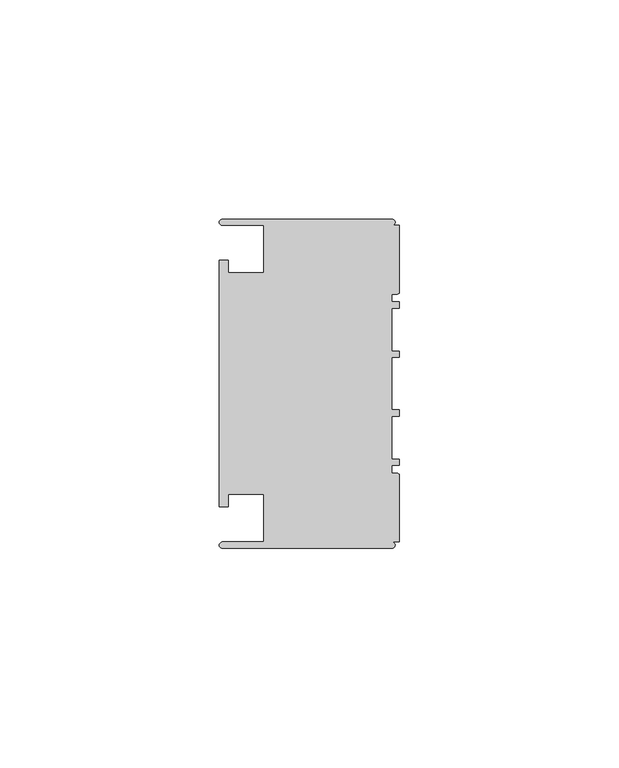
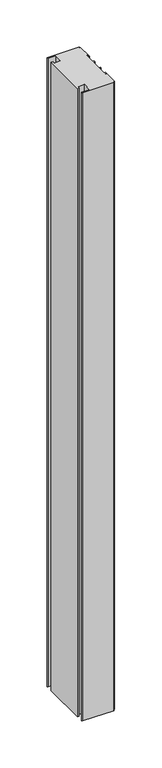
"""IFC4 building model written with IfcOpenShell, lengths in millimetres: member geometry, Прямоугольный импост : 3-AMG-2-Профиль 40Х75 Верх П."""

from ifc_helpers import new_model, si_unit, point, frame, frame_2d, origin, place, context, project, spatial, polyline, circle_curve, trimmed, segment, composite_curve, outline, extrude, source, transform, mapped, element, save


def member_b93c6e8b(model_context):
    return source(origin(), model_context, "Body", "SweptSolid", [
        extrude(outline(composite_curve([segment(polyline([(-1.7, -37.5), (-40.4, -37.5)]), True, "CONTINUOUS"), segment(trimmed(circle_curve(frame_2d((-40.4, -36.8)), 0.7), [point((-40.4, -37.5))], [point((-40.4, -36.1))], False, "CARTESIAN"), True, "CONTINUOUS"), segment(polyline([(-40.4, -36.1), (-31.0, -36.1), (-31.0, -25.25), (-39.0, -25.25), (-39.0, -28.1), (-41.1, -28.1), (-41.1, 28.1), (-39.0, 28.1), (-39.0, 25.25), (-31.0, 25.25), (-31.0, 36.1), (-40.4, 36.1)]), True, "CONTINUOUS"), segment(trimmed(circle_curve(frame_2d((-40.4, 36.8)), 0.7), [point((-40.4, 36.1))], [point((-40.4, 37.5))], False, "CARTESIAN"), True, "CONTINUOUS"), segment(polyline([(-40.4, 37.5), (-1.7, 37.5)]), True, "CONTINUOUS"), segment(trimmed(circle_curve(frame_2d((-1.7, 36.8)), 0.7), [point((-1.7, 37.5))], [point((-1.7, 36.1))], False, "CARTESIAN"), True, "CONTINUOUS"), segment(polyline([(-1.7, 36.1), (0.0, 36.1), (0.0, 20.95)]), True, "CONTINUOUS"), segment(trimmed(circle_curve(frame_2d((-0.5, 20.95)), 0.5), [point((0.0, 20.95))], [point((-0.5, 20.45))], False, "CARTESIAN"), True, "CONTINUOUS"), segment(polyline([(-0.5, 20.45), (-1.8, 20.45), (-1.8, 18.65), (0.0, 18.65), (0.0, 17.25), (-1.8, 17.25), (-1.8, 7.4), (0.0, 7.4), (0.0, 6.0), (-1.8, 6.0), (-1.8, -6.0), (0.0, -6.0), (0.0, -7.4), (-1.8, -7.4), (-1.8, -17.25), (0.0, -17.25), (0.0, -18.65), (-1.8, -18.65), (-1.8, -20.45), (-0.5, -20.45)]), True, "CONTINUOUS"), segment(trimmed(circle_curve(frame_2d((-0.5, -20.95)), 0.5), [point((-0.5, -20.45))], [point((0.0, -20.95))], False, "CARTESIAN"), True, "CONTINUOUS"), segment(polyline([(0.0, -20.95), (0.0, -36.1), (-1.7, -36.1)]), True, "CONTINUOUS"), segment(trimmed(circle_curve(frame_2d((-1.7, -36.8)), 0.7), [point((-1.7, -36.1))], [point((-1.7, -37.5))], False, "CARTESIAN"), True, "CONTINUOUS")], self_intersect=False)), frame((0.0, 0.0, -817.8), z_axis=(0.0, 0.0, 1.0), x_axis=(1.0, 0.0, 0.0)), (0.0, 0.0, 1.0), 817.8),
    ])


if __name__ == "__main__":
    model = new_model("IFC4")
    model_context = context("Model", 3, world=origin())
    ifc_project = project(units=[si_unit("LENGTHUNIT", "METRE", prefix="MILLI")], contexts=[model_context])
    site = spatial("IfcSite", under=ifc_project)
    building = spatial("IfcBuilding", under=site)
    placement = place(None, origin())
    member_shape = member_b93c6e8b(model_context)
    element("IfcMember", 1, ObjectType="Прямоугольный импост : 3-AMG-2-Профиль 40Х75 Верх П", at=placement, inside=building, context=model_context, shape_type="MappedRepresentation", body=[
        mapped(member_shape, transform((0.0, 0.0, 0.0), x_axis=(1.0, 0.0, 0.0), y_axis=(0.0, 1.0, 0.0), z_axis=(0.0, 0.0, 1.0))),
    ])
    save(model, "model.ifc")
